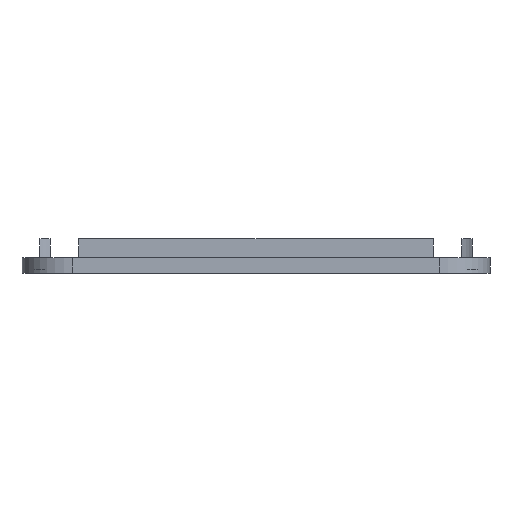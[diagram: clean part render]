
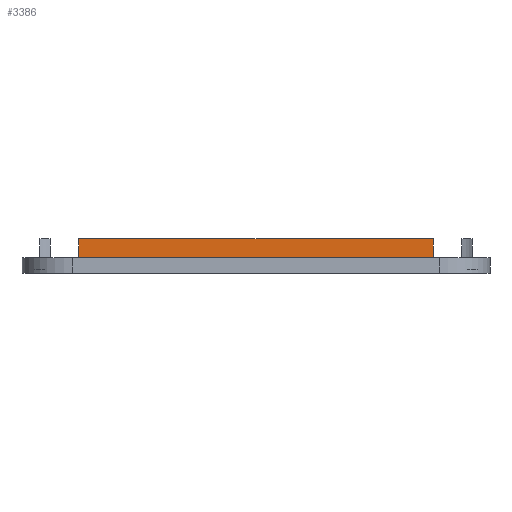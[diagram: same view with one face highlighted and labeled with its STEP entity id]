
A CAD part, front view. The second image highlights one B-rep face of the part: STEP entity #3386.
In plain terms, the highlighted planar face has unit normal (0, -1, 0).
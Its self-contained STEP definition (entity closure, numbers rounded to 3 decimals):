
#44 = PLANE('',#45);
#45 = AXIS2_PLACEMENT_3D('',#46,#47,#48);
#46 = CARTESIAN_POINT('',(-37.105,-48.95,2.5));
#47 = DIRECTION('',(0.,0.,1.));
#48 = DIRECTION('',(1.,0.,0.));
#375 = EDGE_CURVE('',#376,#378,#380,.T.);
#376 = VERTEX_POINT('',#377);
#377 = CARTESIAN_POINT('',(-28.093,-46.1,2.5));
#378 = VERTEX_POINT('',#379);
#379 = CARTESIAN_POINT('',(28.093,-46.1,2.5));
#380 = SURFACE_CURVE('',#381,(#385,#392),.PCURVE_S1.);
#381 = LINE('',#382,#383);
#382 = CARTESIAN_POINT('',(-34.255,-46.1,2.5));
#383 = VECTOR('',#384,1.);
#384 = DIRECTION('',(1.,0.,0.));
#385 = PCURVE('',#44,#386);
#386 = DEFINITIONAL_REPRESENTATION('',(#387),#391);
#387 = LINE('',#388,#389);
#388 = CARTESIAN_POINT('',(2.85,2.85));
#389 = VECTOR('',#390,1.);
#390 = DIRECTION('',(1.,0.));
#391 = ( GEOMETRIC_REPRESENTATION_CONTEXT(2) 
PARAMETRIC_REPRESENTATION_CONTEXT() REPRESENTATION_CONTEXT('2D SPACE',''
  ) );
#392 = PCURVE('',#393,#398);
#393 = PLANE('',#394);
#394 = AXIS2_PLACEMENT_3D('',#395,#396,#397);
#395 = CARTESIAN_POINT('',(-34.255,-46.1,2.5));
#396 = DIRECTION('',(0.,1.,0.));
#397 = DIRECTION('',(0.,0.,1.));
#398 = DEFINITIONAL_REPRESENTATION('',(#399),#403);
#399 = LINE('',#400,#401);
#400 = CARTESIAN_POINT('',(0.,0.));
#401 = VECTOR('',#402,1.);
#402 = DIRECTION('',(0.,1.));
#403 = ( GEOMETRIC_REPRESENTATION_CONTEXT(2) 
PARAMETRIC_REPRESENTATION_CONTEXT() REPRESENTATION_CONTEXT('2D SPACE',''
  ) );
#426 = CYLINDRICAL_SURFACE('',#427,4.4);
#427 = AXIS2_PLACEMENT_3D('',#428,#429,#430);
#428 = CARTESIAN_POINT('',(-31.605,-43.45,2.4));
#429 = DIRECTION('',(-0.,-0.,-1.));
#430 = DIRECTION('',(1.,0.,0.));
#484 = CYLINDRICAL_SURFACE('',#485,4.4);
#485 = AXIS2_PLACEMENT_3D('',#486,#487,#488);
#486 = CARTESIAN_POINT('',(31.605,-43.45,2.4));
#487 = DIRECTION('',(-0.,-0.,-1.));
#488 = DIRECTION('',(1.,0.,0.));
#3386 = ADVANCED_FACE('',(#3387),#393,.F.);
#3387 = FACE_BOUND('',#3388,.F.);
#3388 = EDGE_LOOP('',(#3389,#3390,#3411,#3439));
#3389 = ORIENTED_EDGE('',*,*,#375,.F.);
#3390 = ORIENTED_EDGE('',*,*,#3391,.F.);
#3391 = EDGE_CURVE('',#3392,#376,#3394,.T.);
#3392 = VERTEX_POINT('',#3393);
#3393 = CARTESIAN_POINT('',(-28.093,-46.1,5.5));
#3394 = SURFACE_CURVE('',#3395,(#3399,#3405),.PCURVE_S1.);
#3395 = LINE('',#3396,#3397);
#3396 = CARTESIAN_POINT('',(-28.093,-46.1,2.4));
#3397 = VECTOR('',#3398,1.);
#3398 = DIRECTION('',(-0.,-0.,-1.));
#3399 = PCURVE('',#393,#3400);
#3400 = DEFINITIONAL_REPRESENTATION('',(#3401),#3404);
#3401 = B_SPLINE_CURVE_WITH_KNOTS('',1,(#3402,#3403),.UNSPECIFIED.,.F.,
  .F.,(2,2),(-3.3,0.),.PIECEWISE_BEZIER_KNOTS.);
#3402 = CARTESIAN_POINT('',(3.2,6.162));
#3403 = CARTESIAN_POINT('',(-0.1,6.162));
#3404 = ( GEOMETRIC_REPRESENTATION_CONTEXT(2) 
PARAMETRIC_REPRESENTATION_CONTEXT() REPRESENTATION_CONTEXT('2D SPACE',''
  ) );
#3405 = PCURVE('',#426,#3406);
#3406 = DEFINITIONAL_REPRESENTATION('',(#3407),#3410);
#3407 = B_SPLINE_CURVE_WITH_KNOTS('',1,(#3408,#3409),.UNSPECIFIED.,.F.,
  .F.,(2,2),(-3.3,0.),.PIECEWISE_BEZIER_KNOTS.);
#3408 = CARTESIAN_POINT('',(-5.637,-3.3));
#3409 = CARTESIAN_POINT('',(-5.637,0.));
#3410 = ( GEOMETRIC_REPRESENTATION_CONTEXT(2) 
PARAMETRIC_REPRESENTATION_CONTEXT() REPRESENTATION_CONTEXT('2D SPACE',''
  ) );
#3411 = ORIENTED_EDGE('',*,*,#3412,.T.);
#3412 = EDGE_CURVE('',#3392,#3413,#3415,.T.);
#3413 = VERTEX_POINT('',#3414);
#3414 = CARTESIAN_POINT('',(28.093,-46.1,5.5));
#3415 = SURFACE_CURVE('',#3416,(#3420,#3427),.PCURVE_S1.);
#3416 = LINE('',#3417,#3418);
#3417 = CARTESIAN_POINT('',(-34.255,-46.1,5.5));
#3418 = VECTOR('',#3419,1.);
#3419 = DIRECTION('',(1.,0.,0.));
#3420 = PCURVE('',#393,#3421);
#3421 = DEFINITIONAL_REPRESENTATION('',(#3422),#3426);
#3422 = LINE('',#3423,#3424);
#3423 = CARTESIAN_POINT('',(3.,0.));
#3424 = VECTOR('',#3425,1.);
#3425 = DIRECTION('',(0.,1.));
#3426 = ( GEOMETRIC_REPRESENTATION_CONTEXT(2) 
PARAMETRIC_REPRESENTATION_CONTEXT() REPRESENTATION_CONTEXT('2D SPACE',''
  ) );
#3427 = PCURVE('',#3428,#3433);
#3428 = PLANE('',#3429);
#3429 = AXIS2_PLACEMENT_3D('',#3430,#3431,#3432);
#3430 = CARTESIAN_POINT('',(-34.255,-46.1,5.5));
#3431 = DIRECTION('',(0.,0.,1.));
#3432 = DIRECTION('',(1.,0.,0.));
#3433 = DEFINITIONAL_REPRESENTATION('',(#3434),#3438);
#3434 = LINE('',#3435,#3436);
#3435 = CARTESIAN_POINT('',(0.,0.));
#3436 = VECTOR('',#3437,1.);
#3437 = DIRECTION('',(1.,0.));
#3438 = ( GEOMETRIC_REPRESENTATION_CONTEXT(2) 
PARAMETRIC_REPRESENTATION_CONTEXT() REPRESENTATION_CONTEXT('2D SPACE',''
  ) );
#3439 = ORIENTED_EDGE('',*,*,#3440,.T.);
#3440 = EDGE_CURVE('',#3413,#378,#3441,.T.);
#3441 = SURFACE_CURVE('',#3442,(#3446,#3452),.PCURVE_S1.);
#3442 = LINE('',#3443,#3444);
#3443 = CARTESIAN_POINT('',(28.093,-46.1,2.4));
#3444 = VECTOR('',#3445,1.);
#3445 = DIRECTION('',(-0.,-0.,-1.));
#3446 = PCURVE('',#393,#3447);
#3447 = DEFINITIONAL_REPRESENTATION('',(#3448),#3451);
#3448 = B_SPLINE_CURVE_WITH_KNOTS('',1,(#3449,#3450),.UNSPECIFIED.,.F.,
  .F.,(2,2),(-3.3,0.),.PIECEWISE_BEZIER_KNOTS.);
#3449 = CARTESIAN_POINT('',(3.2,62.348));
#3450 = CARTESIAN_POINT('',(-0.1,62.348));
#3451 = ( GEOMETRIC_REPRESENTATION_CONTEXT(2) 
PARAMETRIC_REPRESENTATION_CONTEXT() REPRESENTATION_CONTEXT('2D SPACE',''
  ) );
#3452 = PCURVE('',#484,#3453);
#3453 = DEFINITIONAL_REPRESENTATION('',(#3454),#3457);
#3454 = B_SPLINE_CURVE_WITH_KNOTS('',1,(#3455,#3456),.UNSPECIFIED.,.F.,
  .F.,(2,2),(-3.3,0.),.PIECEWISE_BEZIER_KNOTS.);
#3455 = CARTESIAN_POINT('',(-3.788,-3.3));
#3456 = CARTESIAN_POINT('',(-3.788,0.));
#3457 = ( GEOMETRIC_REPRESENTATION_CONTEXT(2) 
PARAMETRIC_REPRESENTATION_CONTEXT() REPRESENTATION_CONTEXT('2D SPACE',''
  ) );
